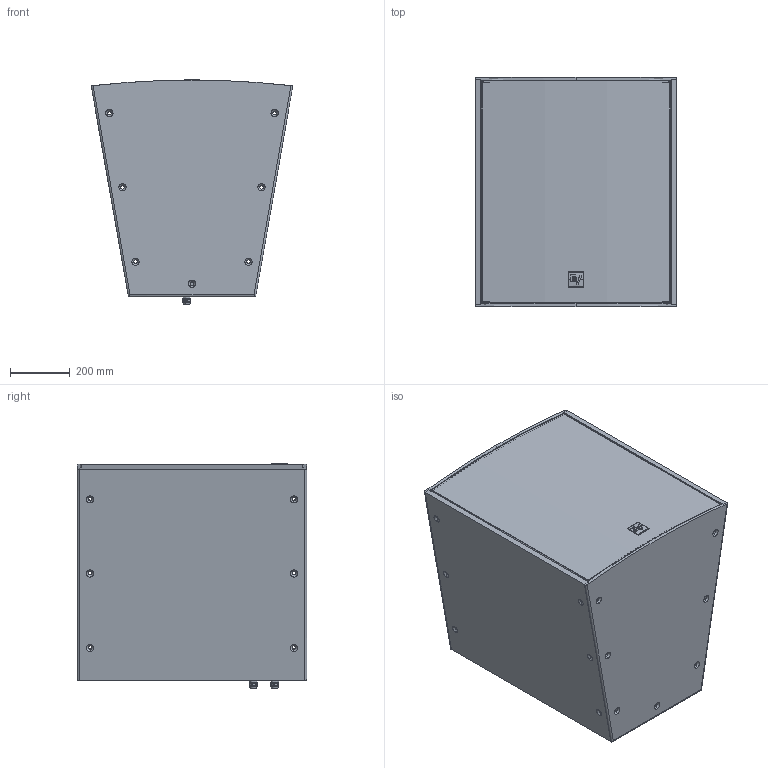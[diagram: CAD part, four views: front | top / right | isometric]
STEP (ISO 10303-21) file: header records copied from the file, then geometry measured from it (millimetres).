
FILE_DESCRIPTION (( 'STEP AP214' ), '1' );
FILE_NAME ('EVF-2151D 3D CAD.STEP', '2023-01-20T22:46:17', ( '' ), ( '' ), 'SwSTEP 2.0', 'SolidWorks 2021', '' );
FILE_SCHEMA (( 'AUTOMOTIVE_DESIGN' ));
Length unit declared in the file: inch
Products named in the file (13): EVF-2151D Enclosure Assembly; EVF-2151D Enclosure Back Panel; EVF-2151D 3D CAD; EVF-2151D Enclosure Top and Bottom Panel; EVF-2151D EV Logo; EVF-2151D Gland Nut 2; EVF-2151D Gland Nut Panel; EVF-2151D Input Panel; EVF-2151D Gland Nut 1; EVF-2151D Enclosure Side Panel; EVF-2151D Gland Nut; EVF-2151D Grille; EVF-2151D Gland Nut 3
Assembly tree (15 placements, depth 3):
  EVF-2151D 3D CAD
    EVF-2151D Enclosure Assembly
      EVF-2151D Enclosure Top and Bottom Panel  x2
      EVF-2151D Enclosure Side Panel  x2
      EVF-2151D Enclosure Back Panel
    EVF-2151D Grille
    EVF-2151D EV Logo
    EVF-2151D Input Panel
    EVF-2151D Gland Nut Panel
    EVF-2151D Gland Nut  x2
      EVF-2151D Gland Nut 1
      EVF-2151D Gland Nut 2
      EVF-2151D Gland Nut 3
Bounding box: 675.64 x 768.55 x 756.89 mm (x, y, z)
Volume: 38630248.4 mm3; surface area: 5724998.4 mm2
Topology: 15 solids, 15 shells, 603 faces, 1537 edges, 977 vertices
Faces by surface type: plane 192, cylinder 184, bspline 146, cone 72, sphere 5, torus 4
Entity records: 20249 total; most frequent: CARTESIAN_POINT 9820, ORIENTED_EDGE 2274, DIRECTION 1728, EDGE_CURVE 1137, VERTEX_POINT 721, AXIS2_PLACEMENT_3D 642, EDGE_LOOP 514, FACE_OUTER_BOUND 446
